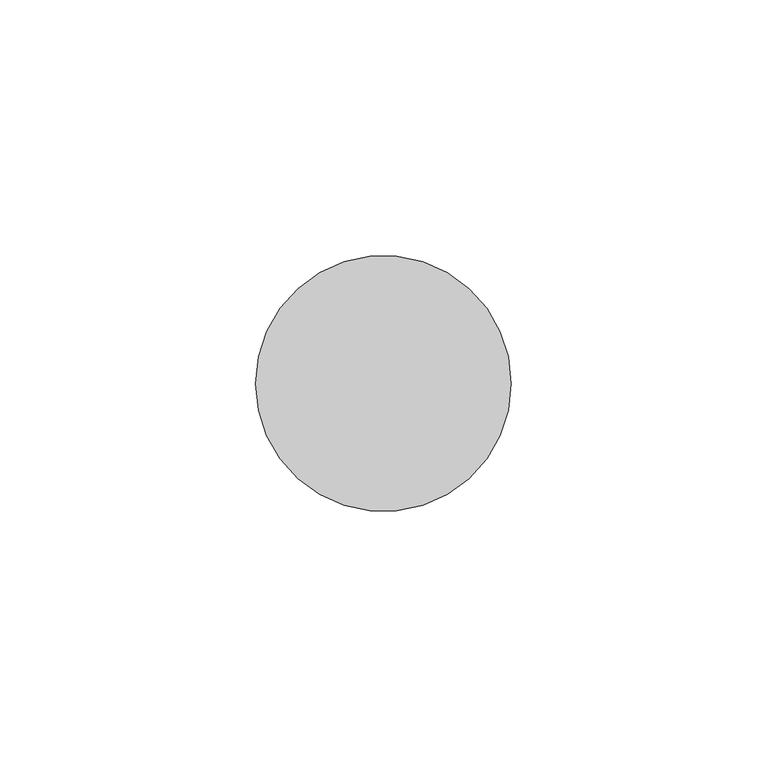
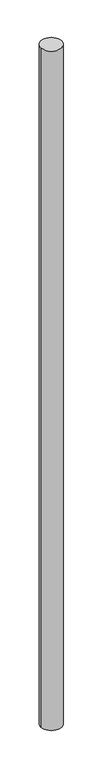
"""IFC4 building model written with IfcOpenShell, lengths in millimetres: member geometry, 圓形豎框 : 25mm 半徑."""

from ifc_helpers import new_model, si_unit, point, frame, origin, origin_2d, place, context, project, spatial, circle_curve, trimmed, segment, composite_curve, outline, extrude, source, transform, mapped, element, save


def member_7f045f6e(model_context):
    return source(origin(), model_context, "Body", "SweptSolid", [
        extrude(outline(composite_curve([segment(trimmed(circle_curve(origin_2d(), 25.0), [point((25.0, 0.0))], [point((-25.0, 0.0))], False, "CARTESIAN"), True, "CONTINUOUS"), segment(trimmed(circle_curve(origin_2d(), 25.0), [point((-25.0, 0.0))], [point((25.0, 0.0))], False, "CARTESIAN"), True, "CONTINUOUS")], self_intersect=False)), frame((0.0, 0.0, -1720.5407278), z_axis=(0.0, 0.0, 1.0), x_axis=(1.0, 0.0, 0.0)), (0.0, 0.0, 1.0), 1720.5407278),
    ])


if __name__ == "__main__":
    model = new_model("IFC4")
    model_context = context("Model", 3, world=origin())
    ifc_project = project(units=[si_unit("LENGTHUNIT", "METRE", prefix="MILLI")], contexts=[model_context])
    site = spatial("IfcSite", under=ifc_project)
    building = spatial("IfcBuilding", under=site)
    placement = place(None, origin())
    member_shape = member_7f045f6e(model_context)
    element("IfcMember", 1, ObjectType="圓形豎框 : 25mm 半徑", at=placement, inside=building, context=model_context, shape_type="MappedRepresentation", body=[
        mapped(member_shape, transform((0.0, 0.0, 0.0), x_axis=(1.0, 0.0, 0.0), y_axis=(0.0, 1.0, 0.0), z_axis=(0.0, 0.0, 1.0))),
    ])
    save(model, "model.ifc")
